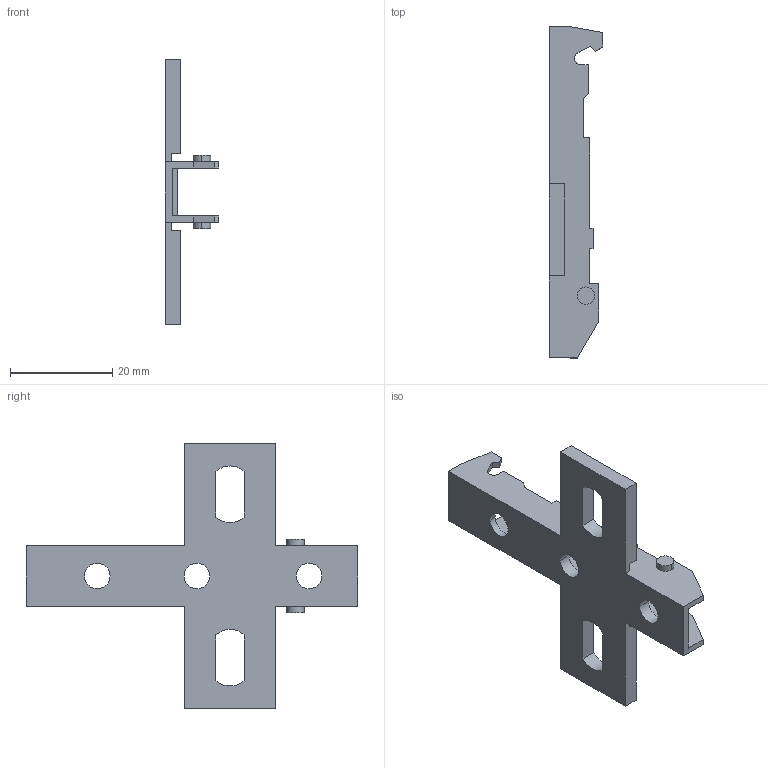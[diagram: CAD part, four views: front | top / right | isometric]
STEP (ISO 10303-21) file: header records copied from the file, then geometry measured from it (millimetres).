
FILE_DESCRIPTION (( 'STEP AP214' ), '1' );
FILE_NAME ('Eco Kreuzmontageplatte LR37_32_Euro_H00.step', '2010-11-18T10:05:55', ( 'grass' ), ( '' ), 'SwSTEP 2.0', 'SolidWorks 2010', '' );
FILE_SCHEMA (( 'AUTOMOTIVE_DESIGN' ));
Length unit declared in the file: millimetre
Products named in the file (1): Eco Kreuzmontageplatte LR37_32_Euro_H00
Bounding box: 10.5 x 65 x 52 mm (x, y, z)
Volume: 4014.4 mm3; surface area: 5225.8 mm2
Topology: 1 solids, 1 shells, 84 faces, 240 edges, 160 vertices
Faces by surface type: plane 66, cylinder 18
Entity records: 2774 total; most frequent: CARTESIAN_POINT 485, ORIENTED_EDGE 480, DIRECTION 446, EDGE_CURVE 240, LINE 204, VECTOR 204, VERTEX_POINT 160, AXIS2_PLACEMENT_3D 121
